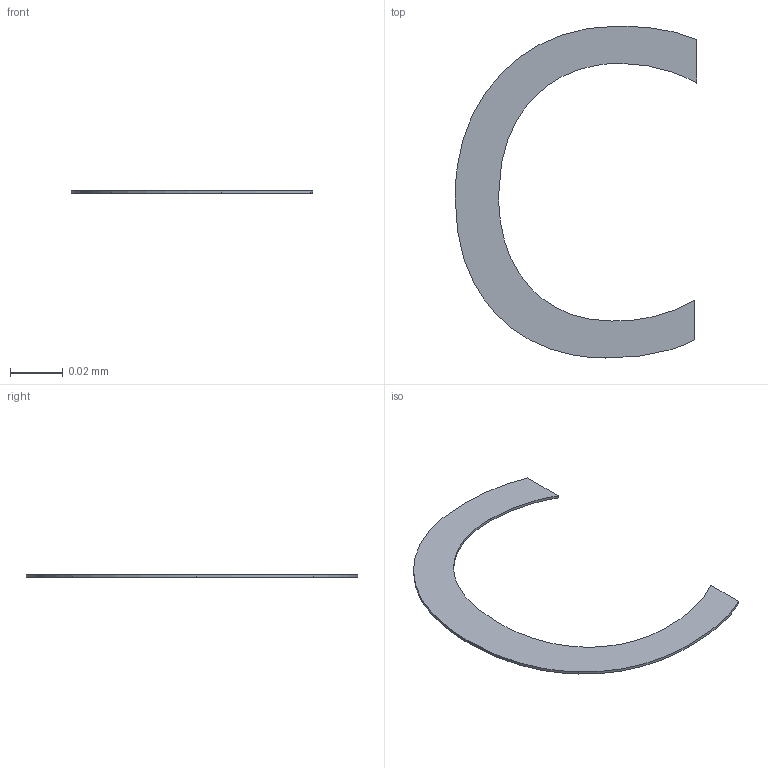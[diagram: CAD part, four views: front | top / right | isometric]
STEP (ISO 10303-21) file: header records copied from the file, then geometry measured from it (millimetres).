
FILE_DESCRIPTION(/* description */ ('STEP AP242 Edition 2','CAx-IF Rec.Pracs.---Representation and Presentation of Product Manufacturing Information (PMI)---4.0---2014-10-13','CAx-IF Rec.Pracs.---3D Tessellated Geometry---0.4---2014-09-14','2;1','CAx-IF Rec.Pracs.---User Defined Attributes---1.5---2016-08-15'),/* implementation_level */ '2;1');
FILE_NAME(/* name */ 'Assembly 1 - SW-SMD_L3.9-W3.0-P4.45~SW-SMD_L3.9-W2.9-H2.0-LS4.8~nxQB (2)',/* time_stamp */ '2026-04-02T09:55:25Z',/* author */ (''),/* organization */ (''),/* preprocessor_version */ 'ST-DEVELOPER v20',/* originating_system */ 'ONSHAPE BY PTC INC, 1.212',/* authorisation */ ' ');
FILE_SCHEMA (('AP242_MANAGED_MODEL_BASED_3D_ENGINEERING_MIM_LF { 1 0 10303 442 3 1 4 }'));
Length unit declared in the file: metre
Products named in the file (1): SW-SMD_L3.9-W3.0-P4.45~SW-SMD_L3.9-W2.9-H2.0-LS4.8~nxQB
Bounding box: 0.09 x 0.13 x 0 mm (x, y, z)
Volume: 0 mm3; surface area: 0 mm2
Topology: 1 solids, 1 shells, 16 faces, 42 edges, 28 vertices
Faces by surface type: bspline 12, plane 4
Entity records: 693 total; most frequent: CARTESIAN_POINT 243, ORIENTED_EDGE 84, EDGE_CURVE 42, VERTEX_POINT 28, DIRECTION 28, B_SPLINE_CURVE_WITH_KNOTS 24, LINE 18, VECTOR 18
